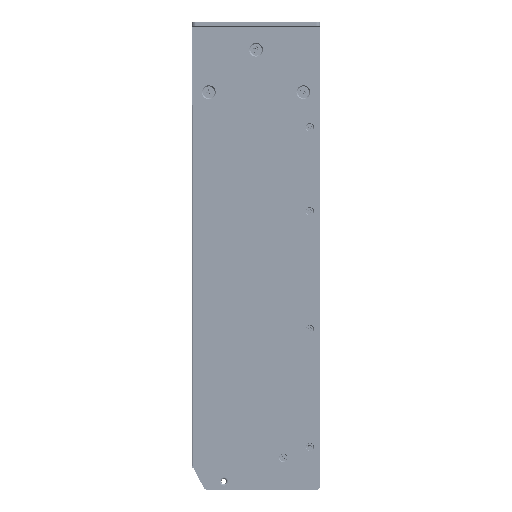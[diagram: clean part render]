
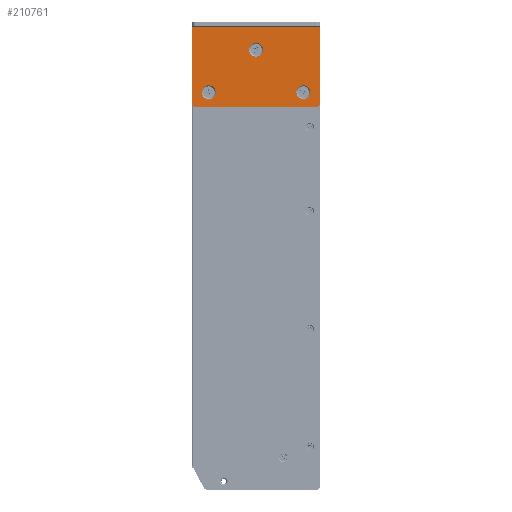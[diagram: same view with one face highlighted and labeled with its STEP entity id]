
A CAD part, left-side view. The second image highlights one B-rep face of the part: STEP entity #210761.
In plain terms, the highlighted planar face has unit normal (-1, 0, 0).
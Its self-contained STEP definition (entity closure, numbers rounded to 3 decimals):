
#19 = EDGE_LOOP ( 'NONE', ( #136551, #265575 ) ) ;
#1431 = FACE_BOUND ( 'NONE', #214041, .T. ) ;
#4988 = EDGE_CURVE ( 'NONE', #180827, #250543, #286198, .T. ) ;
#6657 = DIRECTION ( 'NONE',  ( 0., 0., -1. ) ) ;
#9314 = AXIS2_PLACEMENT_3D ( 'NONE', #193511, #244616, #6657 ) ;
#17304 = DIRECTION ( 'NONE',  ( -1., 0., 0. ) ) ;
#21190 = DIRECTION ( 'NONE',  ( -1., 0., 0. ) ) ;
#21863 = ORIENTED_EDGE ( 'NONE', *, *, #41870, .F. ) ;
#22577 = ORIENTED_EDGE ( 'NONE', *, *, #213602, .F. ) ;
#22907 = CARTESIAN_POINT ( 'NONE',  ( -43.551, 260.793, 301.047 ) ) ;
#24893 = DIRECTION ( 'NONE',  ( 0., 0., 1. ) ) ;
#29597 = FACE_BOUND ( 'NONE', #19, .T. ) ;
#30236 = VERTEX_POINT ( 'NONE', #222579 ) ;
#33444 = AXIS2_PLACEMENT_3D ( 'NONE', #39191, #90314, #144932 ) ;
#33471 = DIRECTION ( 'NONE',  ( -1., 0., 0. ) ) ;
#36513 = CARTESIAN_POINT ( 'NONE',  ( -43.551, 260.793, 296.347 ) ) ;
#38202 = CARTESIAN_POINT ( 'NONE',  ( -43.551, 269.518, 291.047 ) ) ;
#38658 = CARTESIAN_POINT ( 'NONE',  ( -43.551, 184.468, 291.047 ) ) ;
#39191 = CARTESIAN_POINT ( 'NONE',  ( -43.551, 228.493, 330.047 ) ) ;
#39272 = DIRECTION ( 'NONE',  ( 0., -1., 0. ) ) ;
#41870 = EDGE_CURVE ( 'NONE', #30236, #110091, #275619, .T. ) ;
#45425 = EDGE_LOOP ( 'NONE', ( #341673, #22577 ) ) ;
#45638 = VERTEX_POINT ( 'NONE', #298095 ) ;
#46389 = CARTESIAN_POINT ( 'NONE',  ( -43.551, 196.193, 301.047 ) ) ;
#46438 = CARTESIAN_POINT ( 'NONE',  ( -43.551, 228.493, 334.747 ) ) ;
#49042 = AXIS2_PLACEMENT_3D ( 'NONE', #22907, #21190, #183301 ) ;
#51121 = VERTEX_POINT ( 'NONE', #204798 ) ;
#62160 = CARTESIAN_POINT ( 'NONE',  ( -43.551, 184.468, 291.047 ) ) ;
#62511 = VERTEX_POINT ( 'NONE', #145393 ) ;
#64249 = DIRECTION ( 'NONE',  ( -1., 0., 0. ) ) ;
#67454 = CARTESIAN_POINT ( 'NONE',  ( -43.551, 272.518, 345.547 ) ) ;
#69086 = DIRECTION ( 'NONE',  ( 0., 0., 1. ) ) ;
#69546 = LINE ( 'NONE', #177070, #137648 ) ;
#72977 = DIRECTION ( 'NONE',  ( -1., 0., 0. ) ) ;
#79503 = CARTESIAN_POINT ( 'NONE',  ( -43.551, 184.468, 294.047 ) ) ;
#85968 = PLANE ( 'NONE',  #9314 ) ;
#90314 = DIRECTION ( 'NONE',  ( -1., 0., 0. ) ) ;
#95514 = DIRECTION ( 'NONE',  ( -1., 0., 0. ) ) ;
#98876 = VECTOR ( 'NONE', #39272, 1000. ) ;
#110091 = VERTEX_POINT ( 'NONE', #245825 ) ;
#110395 = VERTEX_POINT ( 'NONE', #46438 ) ;
#123926 = EDGE_CURVE ( 'NONE', #250543, #180827, #178370, .T. ) ;
#125671 = VERTEX_POINT ( 'NONE', #38202 ) ;
#125855 = DIRECTION ( 'NONE',  ( 0., 0., 1. ) ) ;
#129249 = CIRCLE ( 'NONE', #33444, 4.7 ) ;
#130079 = EDGE_LOOP ( 'NONE', ( #190630, #268844, #307902, #234950, #195696, #147445 ) ) ;
#136551 = ORIENTED_EDGE ( 'NONE', *, *, #123926, .F. ) ;
#137648 = VECTOR ( 'NONE', #24893, 1000. ) ;
#144932 = DIRECTION ( 'NONE',  ( 0., 0., 1. ) ) ;
#145393 = CARTESIAN_POINT ( 'NONE',  ( -43.551, 272.518, 294.047 ) ) ;
#146050 = DIRECTION ( 'NONE',  ( 0., 0., -1. ) ) ;
#146672 = DIRECTION ( 'NONE',  ( 0., 1., 0. ) ) ;
#147445 = ORIENTED_EDGE ( 'NONE', *, *, #337532, .T. ) ;
#147775 = CARTESIAN_POINT ( 'NONE',  ( -43.551, 187.468, 294.047 ) ) ;
#150073 = CARTESIAN_POINT ( 'NONE',  ( -43.551, 272.518, 345.547 ) ) ;
#153632 = EDGE_CURVE ( 'NONE', #110395, #276868, #329070, .T. ) ;
#153844 = DIRECTION ( 'NONE',  ( -1., 0., 0. ) ) ;
#159790 = CIRCLE ( 'NONE', #255726, 3. ) ;
#163529 = FACE_OUTER_BOUND ( 'NONE', #130079, .T. ) ;
#177070 = CARTESIAN_POINT ( 'NONE',  ( -43.551, 272.518, 291.047 ) ) ;
#178370 = CIRCLE ( 'NONE', #49042, 4.7 ) ;
#179792 = AXIS2_PLACEMENT_3D ( 'NONE', #46389, #153844, #211986 ) ;
#180827 = VERTEX_POINT ( 'NONE', #36513 ) ;
#183301 = DIRECTION ( 'NONE',  ( 0., 0., 1. ) ) ;
#184778 = ORIENTED_EDGE ( 'NONE', *, *, #250277, .F. ) ;
#186007 = VERTEX_POINT ( 'NONE', #79503 ) ;
#190630 = ORIENTED_EDGE ( 'NONE', *, *, #213736, .F. ) ;
#193511 = CARTESIAN_POINT ( 'NONE',  ( -43.551, 184.468, 291.047 ) ) ;
#195696 = ORIENTED_EDGE ( 'NONE', *, *, #251545, .F. ) ;
#199076 = DIRECTION ( 'NONE',  ( 0., 0., -1. ) ) ;
#201411 = LINE ( 'NONE', #67454, #98876 ) ;
#201715 = AXIS2_PLACEMENT_3D ( 'NONE', #231636, #72977, #125855 ) ;
#204798 = CARTESIAN_POINT ( 'NONE',  ( -43.551, 184.468, 345.547 ) ) ;
#209233 = CIRCLE ( 'NONE', #344308, 3. ) ;
#210761 = ADVANCED_FACE ( 'NONE', ( #29597, #1431, #223401, #163529 ), #85968, .F. ) ;
#211986 = DIRECTION ( 'NONE',  ( 0., 0., 1. ) ) ;
#213602 = EDGE_CURVE ( 'NONE', #276868, #110395, #129249, .T. ) ;
#213736 = EDGE_CURVE ( 'NONE', #45638, #125671, #277128, .T. ) ;
#214041 = EDGE_LOOP ( 'NONE', ( #184778, #21863 ) ) ;
#217103 = EDGE_CURVE ( 'NONE', #45638, #186007, #209233, .T. ) ;
#221481 = AXIS2_PLACEMENT_3D ( 'NONE', #336944, #95514, #69086 ) ;
#222579 = CARTESIAN_POINT ( 'NONE',  ( -43.551, 196.193, 296.347 ) ) ;
#223401 = FACE_BOUND ( 'NONE', #45425, .T. ) ;
#231636 = CARTESIAN_POINT ( 'NONE',  ( -43.551, 260.793, 301.047 ) ) ;
#234950 = ORIENTED_EDGE ( 'NONE', *, *, #268027, .F. ) ;
#244616 = DIRECTION ( 'NONE',  ( 1., 0., 0. ) ) ;
#245825 = CARTESIAN_POINT ( 'NONE',  ( -43.551, 196.193, 305.747 ) ) ;
#249334 = DIRECTION ( 'NONE',  ( 0., 0., -1. ) ) ;
#250075 = AXIS2_PLACEMENT_3D ( 'NONE', #253675, #33471, #280115 ) ;
#250277 = EDGE_CURVE ( 'NONE', #110091, #30236, #283344, .T. ) ;
#250543 = VERTEX_POINT ( 'NONE', #334812 ) ;
#251545 = EDGE_CURVE ( 'NONE', #62511, #332514, #69546, .T. ) ;
#253675 = CARTESIAN_POINT ( 'NONE',  ( -43.551, 228.493, 330.047 ) ) ;
#255726 = AXIS2_PLACEMENT_3D ( 'NONE', #305711, #64249, #249334 ) ;
#258473 = CARTESIAN_POINT ( 'NONE',  ( -43.551, 228.493, 325.347 ) ) ;
#265575 = ORIENTED_EDGE ( 'NONE', *, *, #4988, .F. ) ;
#268027 = EDGE_CURVE ( 'NONE', #332514, #51121, #201411, .T. ) ;
#268844 = ORIENTED_EDGE ( 'NONE', *, *, #217103, .T. ) ;
#269845 = VECTOR ( 'NONE', #146672, 1000. ) ;
#275619 = CIRCLE ( 'NONE', #179792, 4.7 ) ;
#276868 = VERTEX_POINT ( 'NONE', #258473 ) ;
#277128 = LINE ( 'NONE', #62160, #269845 ) ;
#280115 = DIRECTION ( 'NONE',  ( 0., 0., 1. ) ) ;
#283344 = CIRCLE ( 'NONE', #221481, 4.7 ) ;
#286198 = CIRCLE ( 'NONE', #201715, 4.7 ) ;
#286804 = EDGE_CURVE ( 'NONE', #51121, #186007, #309994, .T. ) ;
#298095 = CARTESIAN_POINT ( 'NONE',  ( -43.551, 187.468, 291.047 ) ) ;
#305711 = CARTESIAN_POINT ( 'NONE',  ( -43.551, 269.518, 294.047 ) ) ;
#307902 = ORIENTED_EDGE ( 'NONE', *, *, #286804, .F. ) ;
#308298 = VECTOR ( 'NONE', #199076, 1000. ) ;
#309994 = LINE ( 'NONE', #38658, #308298 ) ;
#329070 = CIRCLE ( 'NONE', #250075, 4.7 ) ;
#332514 = VERTEX_POINT ( 'NONE', #150073 ) ;
#334812 = CARTESIAN_POINT ( 'NONE',  ( -43.551, 260.793, 305.747 ) ) ;
#336944 = CARTESIAN_POINT ( 'NONE',  ( -43.551, 196.193, 301.047 ) ) ;
#337532 = EDGE_CURVE ( 'NONE', #62511, #125671, #159790, .T. ) ;
#341673 = ORIENTED_EDGE ( 'NONE', *, *, #153632, .F. ) ;
#344308 = AXIS2_PLACEMENT_3D ( 'NONE', #147775, #17304, #146050 ) ;
